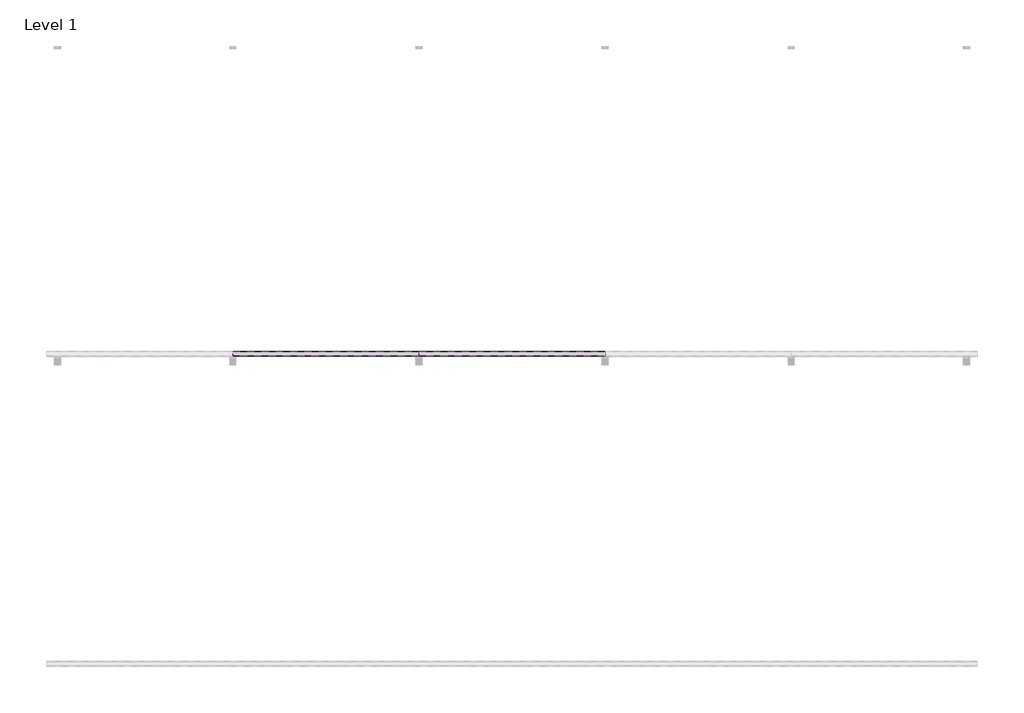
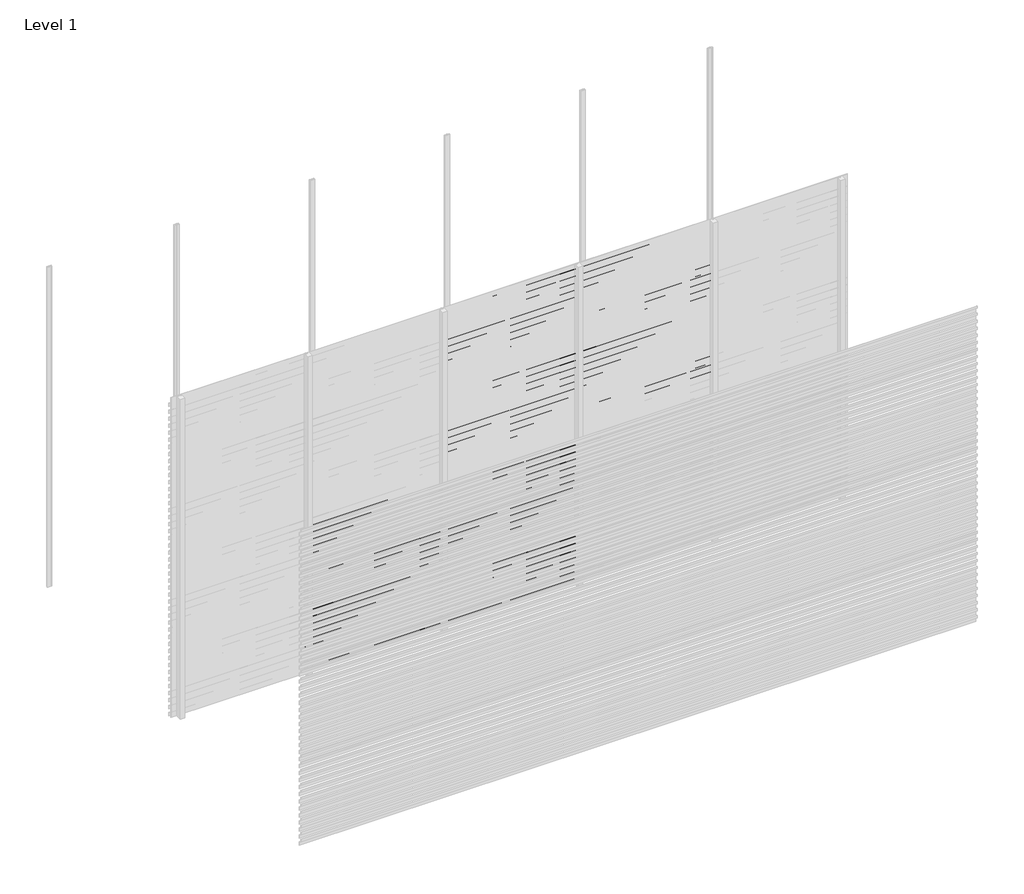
# One storey, part 17 of 33: 88 proxies.
"""IFC4 building model written with IfcOpenShell, lengths in millimetres."""

import ifcopenshell
import ifcopenshell.guid

model = None  # the IFC model being written
_history = None  # IfcOwnerHistory: only IFC2X3 demands one
_inside = {}  # id of a spatial element -> (the spatial element, [elements in it])
_under = {}  # id of a project, library or spatial element -> (it, [spatial elements below it])
_declared = {}  # id of a project -> (the project, [libraries it declares])
_typed = {}  # id of a type object -> (the type object, [elements of that type])
_made_of = {}  # id of a material, layer set ... -> (it, [elements and type objects made of it])


def new_model(schema):
    """Start an empty IFC model of exactly this schema.

    Asked for "IFC4X3", IfcOpenShell would pick the latest addendum, in which some entities
    have other attributes; the version numbers below select the first issue.
    IFC2X3 requires an IfcOwnerHistory on every rooted entity: one is made here for all.
    """
    global model, _history
    if schema == "IFC4X3":
        model = ifcopenshell.file(schema_version=(4, 3, 0, 0))
    else:
        model = ifcopenshell.file(schema=schema)
    _inside.clear()
    _under.clear()
    _declared.clear()
    _typed.clear()
    _made_of.clear()
    _history = None
    if model.schema == "IFC2X3":
        org = make("IfcOrganization", Name="unknown")
        user = make(
            "IfcPersonAndOrganization",
            ThePerson=make("IfcPerson", FamilyName="unknown"),
            TheOrganization=org,
        )
        app = make(
            "IfcApplication",
            ApplicationDeveloper=org,
            Version="unknown",
            ApplicationFullName="unknown",
            ApplicationIdentifier="unknown",
        )
        _history = make(
            "IfcOwnerHistory",
            OwningUser=user,
            OwningApplication=app,
            ChangeAction="ADDED",
            CreationDate=0,
        )
    return model


def make(cls, **values):
    """One entity of the class cls with the attributes given. An attribute that is None is left unset."""
    return model.create_entity(
        cls, **{name: value for name, value in values.items() if value is not None}
    )


def rooted(cls, **values):
    """An entity with a GlobalId (a new one), such as an element, a storey or a relation."""
    return make(cls, GlobalId=ifcopenshell.guid.new(), OwnerHistory=_history, **values)


def si_unit(unit_type, name, prefix=None):
    """IfcSIUnit, for example si_unit("LENGTHUNIT", "METRE", prefix="MILLI")."""
    return make("IfcSIUnit", UnitType=unit_type, Prefix=prefix, Name=name)


def assignment(units):
    """IfcUnitAssignment: the units of a project."""
    return None if units is None else make("IfcUnitAssignment", Units=units)


def point(xyz):
    """IfcCartesianPoint."""
    return None if xyz is None else make("IfcCartesianPoint", Coordinates=xyz)


def direction(xyz):
    """IfcDirection."""
    return None if xyz is None else make("IfcDirection", DirectionRatios=xyz)


def frame(location, z_axis=None, x_axis=None):
    """IfcAxis2Placement3D, a coordinate frame: its origin and axes. An axis left out is left unset."""
    return make(
        "IfcAxis2Placement3D",
        Location=point(location),
        Axis=direction(z_axis),
        RefDirection=direction(x_axis),
    )


def origin():
    """The frame at (0, 0, 0) with its axes left unset."""
    return frame((0.0, 0.0, 0.0))


def place(relative_to, where):
    """IfcLocalPlacement: puts the frame where relative to a parent placement (None: the world)."""
    return make(
        "IfcLocalPlacement", PlacementRelTo=relative_to, RelativePlacement=where
    )


def context(
    kind, dimensions, precision=None, world=None, true_north=None, identifier=None
):
    """IfcGeometricRepresentationContext, for example the 3D "Model" context."""
    return make(
        "IfcGeometricRepresentationContext",
        ContextIdentifier=identifier,
        ContextType=kind,
        CoordinateSpaceDimension=dimensions,
        Precision=precision,
        WorldCoordinateSystem=world,
        TrueNorth=true_north,
    )


def project(units=None, contexts=None):
    """IfcProject with its units and contexts."""
    return rooted(
        "IfcProject",
        Name="project",
        RepresentationContexts=contexts,
        UnitsInContext=assignment(units),
    )


def spatial(cls, under=None, at=None, **own):
    """A site, building, storey or space (cls), placed at a placement, below another one or the project."""
    s = rooted(cls, ObjectPlacement=at, **own)
    if under is not None:
        _under.setdefault(under.id(), (under, []))[1].append(s)
    return s


def polyline(points):
    """IfcPolyline through the points."""
    return make("IfcPolyline", Points=[point(p) for p in points])


def outline(outer, holes=None, kind="AREA"):
    """IfcArbitraryClosedProfileDef: a profile drawn as a closed curve; with holes, ...WithVoids."""
    if holes is None:
        return make("IfcArbitraryClosedProfileDef", ProfileType=kind, OuterCurve=outer)
    return make(
        "IfcArbitraryProfileDefWithVoids",
        ProfileType=kind,
        OuterCurve=outer,
        InnerCurves=holes,
    )


def extrude(swept, where, along, depth):
    """IfcExtrudedAreaSolid: the profile swept, set in the frame where, extruded along a direction by depth."""
    return make(
        "IfcExtrudedAreaSolid",
        SweptArea=swept,
        Position=where,
        ExtrudedDirection=direction(along),
        Depth=depth,
    )


def shape(context_of_items, identifier, shape_type, items):
    """IfcShapeRepresentation: the items that make up one representation, for example the "Body"."""
    return make(
        "IfcShapeRepresentation",
        ContextOfItems=context_of_items,
        RepresentationIdentifier=identifier,
        RepresentationType=shape_type,
        Items=items,
    )


def made_of(thing, what):
    """Note that an element or type object is made of a material, layer set ...; save() writes the relation."""
    if what is not None:
        _made_of.setdefault(what.id(), (what, []))[1].append(thing)
    return thing


def element(
    cls,
    number,
    at=None,
    inside=None,
    cuts=None,
    type_object=None,
    material=None,
    context=None,
    identifier="Body",
    shape_type=None,
    held_by="IfcProductDefinitionShape",
    body=None,
    shapes=None,
    **own,
):
    """One element of the class cls, such as IfcWall. Its Tag is "e" and its number.

    at: its placement. inside: the storey or other place that contains it. cuts: it is an
    opening in that element (IfcRelVoidsElement). A single representation is given by context,
    identifier, shape_type and body (its items); several are given by shapes. held_by: the class
    of the entity that holds the representations. save() writes the other relations.
    """
    e = rooted(cls, Tag="e%d" % number, ObjectPlacement=at, **own)
    if body is not None:
        shapes = [shape(context, identifier, shape_type, body)]
    if shapes is not None:
        e.Representation = make(held_by, Representations=shapes)
    if inside is not None:
        _inside.setdefault(inside.id(), (inside, []))[1].append(e)
    if cuts is not None:
        rooted(
            "IfcRelVoidsElement", RelatingBuildingElement=cuts, RelatedOpeningElement=e
        )
    if type_object is not None:
        _typed.setdefault(type_object.id(), (type_object, []))[1].append(e)
    return made_of(e, material)


def aggregate(whole, parts):
    """IfcRelAggregates: a whole, such as a stair, and the parts it consists of."""
    return rooted("IfcRelAggregates", RelatingObject=whole, RelatedObjects=parts)


def save(model, path):
    """Write the relations noted so far, then the file.

    IfcRelAggregates (storeys below a building ...), IfcRelContainedInSpatialStructure (elements
    in a storey), IfcRelDefinesByType, IfcRelAssociatesMaterial and IfcRelDeclares: one each for
    every whole, place, type object, material and project.
    """
    for whole, parts in _under.values():
        aggregate(whole, parts)
    for where, things in _inside.values():
        rooted(
            "IfcRelContainedInSpatialStructure",
            RelatedElements=things,
            RelatingStructure=where,
        )
    for kind, things in _typed.values():
        rooted("IfcRelDefinesByType", RelatedObjects=things, RelatingType=kind)
    for what, things in _made_of.values():
        rooted("IfcRelAssociatesMaterial", RelatedObjects=things, RelatingMaterial=what)
    for by, libraries in _declared.values():
        rooted("IfcRelDeclares", RelatingContext=by, RelatedDefinitions=libraries)
    model.write(path)


model = new_model("IFC4")

# Units and contexts
model_context = context("Model", 3, world=origin())
ifc_project = project(units=[si_unit("LENGTHUNIT", "METRE", prefix="MILLI")], contexts=[model_context])

# Site, building, storey
site = spatial("IfcSite", under=ifc_project)
building = spatial("IfcBuilding", under=site)
storey = spatial("IfcBuildingStorey", under=building, Name="Level 1", Elevation=0.0)

# Proxies
placement = place(None, origin())
element("IfcBuildingElementProxy", 1, Name="Wall Sweeps", at=placement, inside=storey, context=model_context, shape_type="SweptSolid", body=[
    extrude(outline(polyline([(-29967.0, 1346.0), (-29967.0, 1313.0), (-29968.25, 1313.7216933), (-29968.25, 1345.2872415), (-29998.0, 1366.0588647), (-29998.0, 1386.0), (-29996.75, 1386.0), (-29996.75, 1366.7716232), (-29967.0, 1346.0)])), frame((1200.0, 0.0, 0.0), z_axis=(1.0, 0.0, 0.0), x_axis=(0.0, 1.0, 0.0)), (0.0, 0.0, 1.0), 1200.0),
])
element("IfcBuildingElementProxy", 2, Name="Wall Sweeps", at=placement, inside=storey, context=model_context, shape_type="SweptSolid", body=[
    extrude(outline(polyline([(-29967.0, 1280.0), (-29967.0, 1247.0), (-29968.25, 1247.7216933), (-29968.25, 1279.2872415), (-29998.0, 1300.0588647), (-29998.0, 1320.0), (-29996.75, 1320.0), (-29996.75, 1300.7716232), (-29967.0, 1280.0)])), frame((1200.0, 0.0, 0.0), z_axis=(1.0, 0.0, 0.0), x_axis=(0.0, 1.0, 0.0)), (0.0, 0.0, 1.0), 1200.0),
])
element("IfcBuildingElementProxy", 3, Name="Wall Sweeps", at=placement, inside=storey, context=model_context, shape_type="SweptSolid", body=[
    extrude(outline(polyline([(-29967.0, 1214.0), (-29967.0, 1181.0), (-29968.25, 1181.7216933), (-29968.25, 1213.2872415), (-29998.0, 1234.0588647), (-29998.0, 1254.0), (-29996.75, 1254.0), (-29996.75, 1234.7716232), (-29967.0, 1214.0)])), frame((1200.0, 0.0, 0.0), z_axis=(1.0, 0.0, 0.0), x_axis=(0.0, 1.0, 0.0)), (0.0, 0.0, 1.0), 1200.0),
])
element("IfcBuildingElementProxy", 4, Name="Wall Sweeps", at=placement, inside=storey, context=model_context, shape_type="SweptSolid", body=[
    extrude(outline(polyline([(-29967.0, 1148.0), (-29967.0, 1115.0), (-29968.25, 1115.7216933), (-29968.25, 1147.2872415), (-29998.0, 1168.0588647), (-29998.0, 1188.0), (-29996.75, 1188.0), (-29996.75, 1168.7716232), (-29967.0, 1148.0)])), frame((1200.0, 0.0, 0.0), z_axis=(1.0, 0.0, 0.0), x_axis=(0.0, 1.0, 0.0)), (0.0, 0.0, 1.0), 1200.0),
])
element("IfcBuildingElementProxy", 5, Name="Wall Sweeps", at=placement, inside=storey, context=model_context, shape_type="SweptSolid", body=[
    extrude(outline(polyline([(-29967.0, 1082.0), (-29967.0, 1049.0), (-29968.25, 1049.7216933), (-29968.25, 1081.2872415), (-29998.0, 1102.0588647), (-29998.0, 1122.0), (-29996.75, 1122.0), (-29996.75, 1102.7716232), (-29967.0, 1082.0)])), frame((1200.0, 0.0, 0.0), z_axis=(1.0, 0.0, 0.0), x_axis=(0.0, 1.0, 0.0)), (0.0, 0.0, 1.0), 1200.0),
])
element("IfcBuildingElementProxy", 6, Name="Wall Sweeps", at=placement, inside=storey, context=model_context, shape_type="SweptSolid", body=[
    extrude(outline(polyline([(-29967.0, 1016.0), (-29967.0, 983.0), (-29968.25, 983.7216933), (-29968.25, 1015.2872415), (-29998.0, 1036.0588647), (-29998.0, 1056.0), (-29996.75, 1056.0), (-29996.75, 1036.7716232), (-29967.0, 1016.0)])), frame((1200.0, 0.0, 0.0), z_axis=(1.0, 0.0, 0.0), x_axis=(0.0, 1.0, 0.0)), (0.0, 0.0, 1.0), 1200.0),
])
element("IfcBuildingElementProxy", 7, Name="Wall Sweeps", at=placement, inside=storey, context=model_context, shape_type="SweptSolid", body=[
    extrude(outline(polyline([(-29967.0, 950.0), (-29967.0, 917.0), (-29968.25, 917.7216933), (-29968.25, 949.2872415), (-29998.0, 970.0588647), (-29998.0, 990.0), (-29996.75, 990.0), (-29996.75, 970.7716232), (-29967.0, 950.0)])), frame((1200.0, 0.0, 0.0), z_axis=(1.0, 0.0, 0.0), x_axis=(0.0, 1.0, 0.0)), (0.0, 0.0, 1.0), 1200.0),
])
element("IfcBuildingElementProxy", 8, Name="Wall Sweeps", at=placement, inside=storey, context=model_context, shape_type="SweptSolid", body=[
    extrude(outline(polyline([(-29967.0, 884.0), (-29967.0, 851.0), (-29968.25, 851.7216933), (-29968.25, 883.2872415), (-29998.0, 904.0588647), (-29998.0, 924.0), (-29996.75, 924.0), (-29996.75, 904.7716232), (-29967.0, 884.0)])), frame((1200.0, 0.0, 0.0), z_axis=(1.0, 0.0, 0.0), x_axis=(0.0, 1.0, 0.0)), (0.0, 0.0, 1.0), 1200.0),
])
element("IfcBuildingElementProxy", 9, Name="Wall Sweeps", at=placement, inside=storey, context=model_context, shape_type="SweptSolid", body=[
    extrude(outline(polyline([(-29967.0, 818.0), (-29967.0, 785.0), (-29968.25, 785.7216933), (-29968.25, 817.2872415), (-29998.0, 838.0588647), (-29998.0, 858.0), (-29996.75, 858.0), (-29996.75, 838.7716232), (-29967.0, 818.0)])), frame((1200.0, 0.0, 0.0), z_axis=(1.0, 0.0, 0.0), x_axis=(0.0, 1.0, 0.0)), (0.0, 0.0, 1.0), 1200.0),
])
element("IfcBuildingElementProxy", 10, Name="Wall Sweeps", at=placement, inside=storey, context=model_context, shape_type="SweptSolid", body=[
    extrude(outline(polyline([(-29967.0, 752.0), (-29967.0, 719.0), (-29968.25, 719.7216933), (-29968.25, 751.2872415), (-29998.0, 772.0588647), (-29998.0, 792.0), (-29996.75, 792.0), (-29996.75, 772.7716232), (-29967.0, 752.0)])), frame((1200.0, 0.0, 0.0), z_axis=(1.0, 0.0, 0.0), x_axis=(0.0, 1.0, 0.0)), (0.0, 0.0, 1.0), 1200.0),
])
element("IfcBuildingElementProxy", 11, Name="Wall Sweeps", at=placement, inside=storey, context=model_context, shape_type="SweptSolid", body=[
    extrude(outline(polyline([(-29967.0, 686.0), (-29967.0, 653.0), (-29968.25, 653.7216933), (-29968.25, 685.2872415), (-29998.0, 706.0588647), (-29998.0, 726.0), (-29996.75, 726.0), (-29996.75, 706.7716232), (-29967.0, 686.0)])), frame((1200.0, 0.0, 0.0), z_axis=(1.0, 0.0, 0.0), x_axis=(0.0, 1.0, 0.0)), (0.0, 0.0, 1.0), 1200.0),
])
element("IfcBuildingElementProxy", 12, Name="Wall Sweeps", at=placement, inside=storey, context=model_context, shape_type="SweptSolid", body=[
    extrude(outline(polyline([(-29967.0, 620.0), (-29967.0, 587.0), (-29968.25, 587.7216933), (-29968.25, 619.2872415), (-29998.0, 640.0588647), (-29998.0, 660.0), (-29996.75, 660.0), (-29996.75, 640.7716232), (-29967.0, 620.0)])), frame((1200.0, 0.0, 0.0), z_axis=(1.0, 0.0, 0.0), x_axis=(0.0, 1.0, 0.0)), (0.0, 0.0, 1.0), 1200.0),
])
element("IfcBuildingElementProxy", 13, Name="Wall Sweeps", at=placement, inside=storey, context=model_context, shape_type="SweptSolid", body=[
    extrude(outline(polyline([(-29967.0, 554.0), (-29967.0, 521.0), (-29968.25, 521.7216933), (-29968.25, 553.2872415), (-29998.0, 574.0588647), (-29998.0, 594.0), (-29996.75, 594.0), (-29996.75, 574.7716232), (-29967.0, 554.0)])), frame((1200.0, 0.0, 0.0), z_axis=(1.0, 0.0, 0.0), x_axis=(0.0, 1.0, 0.0)), (0.0, 0.0, 1.0), 1200.0),
])
element("IfcBuildingElementProxy", 14, Name="Wall Sweeps", at=placement, inside=storey, context=model_context, shape_type="SweptSolid", body=[
    extrude(outline(polyline([(-29967.0, 488.0), (-29967.0, 455.0), (-29968.25, 455.7216933), (-29968.25, 487.2872415), (-29998.0, 508.0588647), (-29998.0, 528.0), (-29996.75, 528.0), (-29996.75, 508.7716232), (-29967.0, 488.0)])), frame((1200.0, 0.0, 0.0), z_axis=(1.0, 0.0, 0.0), x_axis=(0.0, 1.0, 0.0)), (0.0, 0.0, 1.0), 1200.0),
])
element("IfcBuildingElementProxy", 15, Name="Wall Sweeps", at=placement, inside=storey, context=model_context, shape_type="SweptSolid", body=[
    extrude(outline(polyline([(-29967.0, 422.0), (-29967.0, 389.0), (-29968.25, 389.7216933), (-29968.25, 421.2872415), (-29998.0, 442.0588647), (-29998.0, 462.0), (-29996.75, 462.0), (-29996.75, 442.7716232), (-29967.0, 422.0)])), frame((1200.0, 0.0, 0.0), z_axis=(1.0, 0.0, 0.0), x_axis=(0.0, 1.0, 0.0)), (0.0, 0.0, 1.0), 1200.0),
])
element("IfcBuildingElementProxy", 16, Name="Wall Sweeps", at=placement, inside=storey, context=model_context, shape_type="SweptSolid", body=[
    extrude(outline(polyline([(-29967.0, 356.0), (-29967.0, 323.0), (-29968.25, 323.7216933), (-29968.25, 355.2872415), (-29998.0, 376.0588647), (-29998.0, 396.0), (-29996.75, 396.0), (-29996.75, 376.7716232), (-29967.0, 356.0)])), frame((1200.0, 0.0, 0.0), z_axis=(1.0, 0.0, 0.0), x_axis=(0.0, 1.0, 0.0)), (0.0, 0.0, 1.0), 1200.0),
])
element("IfcBuildingElementProxy", 17, Name="Wall Sweeps", at=placement, inside=storey, context=model_context, shape_type="SweptSolid", body=[
    extrude(outline(polyline([(-29967.0, 290.0), (-29967.0, 257.0), (-29968.25, 257.7216933), (-29968.25, 289.2872415), (-29998.0, 310.0588647), (-29998.0, 330.0), (-29996.75, 330.0), (-29996.75, 310.7716232), (-29967.0, 290.0)])), frame((1200.0, 0.0, 0.0), z_axis=(1.0, 0.0, 0.0), x_axis=(0.0, 1.0, 0.0)), (0.0, 0.0, 1.0), 1200.0),
])
element("IfcBuildingElementProxy", 18, Name="Wall Sweeps", at=placement, inside=storey, context=model_context, shape_type="SweptSolid", body=[
    extrude(outline(polyline([(-29967.0, 224.0), (-29967.0, 191.0), (-29968.25, 191.7216933), (-29968.25, 223.2872415), (-29998.0, 244.0588647), (-29998.0, 264.0), (-29996.75, 264.0), (-29996.75, 244.7716232), (-29967.0, 224.0)])), frame((1200.0, 0.0, 0.0), z_axis=(1.0, 0.0, 0.0), x_axis=(0.0, 1.0, 0.0)), (0.0, 0.0, 1.0), 1200.0),
])
element("IfcBuildingElementProxy", 19, Name="Wall Sweeps", at=placement, inside=storey, context=model_context, shape_type="SweptSolid", body=[
    extrude(outline(polyline([(-29967.0, 158.0), (-29967.0, 125.0), (-29968.25, 125.7216933), (-29968.25, 157.2872415), (-29998.0, 178.0588647), (-29998.0, 198.0), (-29996.75, 198.0), (-29996.75, 178.7716232), (-29967.0, 158.0)])), frame((1200.0, 0.0, 0.0), z_axis=(1.0, 0.0, 0.0), x_axis=(0.0, 1.0, 0.0)), (0.0, 0.0, 1.0), 1200.0),
])
element("IfcBuildingElementProxy", 20, Name="Wall Sweeps", at=placement, inside=storey, context=model_context, shape_type="SweptSolid", body=[
    extrude(outline(polyline([(-29967.0, 92.0), (-29967.0, 59.0), (-29968.25, 59.7216933), (-29968.25, 91.2872415), (-29998.0, 112.0588647), (-29998.0, 132.0), (-29996.75, 132.0), (-29996.75, 112.7716232), (-29967.0, 92.0)])), frame((1200.0, 0.0, 0.0), z_axis=(1.0, 0.0, 0.0), x_axis=(0.0, 1.0, 0.0)), (0.0, 0.0, 1.0), 1200.0),
])
element("IfcBuildingElementProxy", 21, Name="Wall Sweeps", at=placement, inside=storey, context=model_context, shape_type="SweptSolid", body=[
    extrude(outline(polyline([(-29967.0, 26.0), (-29967.0, -7.0), (-29968.25, -6.2783067), (-29968.25, 25.2872415), (-29998.0, 46.0588647), (-29998.0, 66.0), (-29996.75, 66.0), (-29996.75, 46.7716232), (-29967.0, 26.0)])), frame((1200.0, 0.0, 0.0), z_axis=(1.0, 0.0, 0.0), x_axis=(0.0, 1.0, 0.0)), (0.0, 0.0, 1.0), 1200.0),
])
element("IfcBuildingElementProxy", 22, Name="Wall Sweeps", at=placement, inside=storey, context=model_context, shape_type="SweptSolid", body=[
    extrude(outline(polyline([(-29967.0, 2930.0), (-29967.0, 2897.0), (-29968.25, 2897.7216933), (-29968.25, 2929.2872415), (-29998.0, 2950.0588647), (-29998.0, 2970.0), (-29996.75, 2970.0), (-29996.75, 2950.7716232), (-29967.0, 2930.0)])), frame((2400.0, 0.0, 0.0), z_axis=(1.0, 0.0, 0.0), x_axis=(0.0, 1.0, 0.0)), (0.0, 0.0, 1.0), 1200.0),
])
element("IfcBuildingElementProxy", 23, Name="Wall Sweeps", at=placement, inside=storey, context=model_context, shape_type="SweptSolid", body=[
    extrude(outline(polyline([(-29967.0, 2864.0), (-29967.0, 2831.0), (-29968.25, 2831.7216933), (-29968.25, 2863.2872415), (-29998.0, 2884.0588647), (-29998.0, 2904.0), (-29996.75, 2904.0), (-29996.75, 2884.7716232), (-29967.0, 2864.0)])), frame((2400.0, 0.0, 0.0), z_axis=(1.0, 0.0, 0.0), x_axis=(0.0, 1.0, 0.0)), (0.0, 0.0, 1.0), 1200.0),
])
element("IfcBuildingElementProxy", 24, Name="Wall Sweeps", at=placement, inside=storey, context=model_context, shape_type="SweptSolid", body=[
    extrude(outline(polyline([(-29967.0, 2798.0), (-29967.0, 2765.0), (-29968.25, 2765.7216933), (-29968.25, 2797.2872415), (-29998.0, 2818.0588647), (-29998.0, 2838.0), (-29996.75, 2838.0), (-29996.75, 2818.7716232), (-29967.0, 2798.0)])), frame((2400.0, 0.0, 0.0), z_axis=(1.0, 0.0, 0.0), x_axis=(0.0, 1.0, 0.0)), (0.0, 0.0, 1.0), 1200.0),
])
element("IfcBuildingElementProxy", 25, Name="Wall Sweeps", at=placement, inside=storey, context=model_context, shape_type="SweptSolid", body=[
    extrude(outline(polyline([(-29967.0, 2732.0), (-29967.0, 2699.0), (-29968.25, 2699.7216933), (-29968.25, 2731.2872415), (-29998.0, 2752.0588647), (-29998.0, 2772.0), (-29996.75, 2772.0), (-29996.75, 2752.7716232), (-29967.0, 2732.0)])), frame((2400.0, 0.0, 0.0), z_axis=(1.0, 0.0, 0.0), x_axis=(0.0, 1.0, 0.0)), (0.0, 0.0, 1.0), 1200.0),
])
element("IfcBuildingElementProxy", 26, Name="Wall Sweeps", at=placement, inside=storey, context=model_context, shape_type="SweptSolid", body=[
    extrude(outline(polyline([(-29967.0, 2666.0), (-29967.0, 2633.0), (-29968.25, 2633.7216933), (-29968.25, 2665.2872415), (-29998.0, 2686.0588647), (-29998.0, 2706.0), (-29996.75, 2706.0), (-29996.75, 2686.7716232), (-29967.0, 2666.0)])), frame((2400.0, 0.0, 0.0), z_axis=(1.0, 0.0, 0.0), x_axis=(0.0, 1.0, 0.0)), (0.0, 0.0, 1.0), 1200.0),
])
element("IfcBuildingElementProxy", 27, Name="Wall Sweeps", at=placement, inside=storey, context=model_context, shape_type="SweptSolid", body=[
    extrude(outline(polyline([(-29967.0, 2600.0), (-29967.0, 2567.0), (-29968.25, 2567.7216933), (-29968.25, 2599.2872415), (-29998.0, 2620.0588647), (-29998.0, 2640.0), (-29996.75, 2640.0), (-29996.75, 2620.7716232), (-29967.0, 2600.0)])), frame((2400.0, 0.0, 0.0), z_axis=(1.0, 0.0, 0.0), x_axis=(0.0, 1.0, 0.0)), (0.0, 0.0, 1.0), 1200.0),
])
element("IfcBuildingElementProxy", 28, Name="Wall Sweeps", at=placement, inside=storey, context=model_context, shape_type="SweptSolid", body=[
    extrude(outline(polyline([(-29967.0, 2534.0), (-29967.0, 2501.0), (-29968.25, 2501.7216933), (-29968.25, 2533.2872415), (-29998.0, 2554.0588647), (-29998.0, 2574.0), (-29996.75, 2574.0), (-29996.75, 2554.7716232), (-29967.0, 2534.0)])), frame((2400.0, 0.0, 0.0), z_axis=(1.0, 0.0, 0.0), x_axis=(0.0, 1.0, 0.0)), (0.0, 0.0, 1.0), 1200.0),
])
element("IfcBuildingElementProxy", 29, Name="Wall Sweeps", at=placement, inside=storey, context=model_context, shape_type="SweptSolid", body=[
    extrude(outline(polyline([(-29967.0, 2468.0), (-29967.0, 2435.0), (-29968.25, 2435.7216933), (-29968.25, 2467.2872415), (-29998.0, 2488.0588647), (-29998.0, 2508.0), (-29996.75, 2508.0), (-29996.75, 2488.7716232), (-29967.0, 2468.0)])), frame((2400.0, 0.0, 0.0), z_axis=(1.0, 0.0, 0.0), x_axis=(0.0, 1.0, 0.0)), (0.0, 0.0, 1.0), 1200.0),
])
element("IfcBuildingElementProxy", 30, Name="Wall Sweeps", at=placement, inside=storey, context=model_context, shape_type="SweptSolid", body=[
    extrude(outline(polyline([(-29967.0, 2402.0), (-29967.0, 2369.0), (-29968.25, 2369.7216933), (-29968.25, 2401.2872415), (-29998.0, 2422.0588647), (-29998.0, 2442.0), (-29996.75, 2442.0), (-29996.75, 2422.7716232), (-29967.0, 2402.0)])), frame((2400.0, 0.0, 0.0), z_axis=(1.0, 0.0, 0.0), x_axis=(0.0, 1.0, 0.0)), (0.0, 0.0, 1.0), 1200.0),
])
element("IfcBuildingElementProxy", 31, Name="Wall Sweeps", at=placement, inside=storey, context=model_context, shape_type="SweptSolid", body=[
    extrude(outline(polyline([(-29967.0, 2336.0), (-29967.0, 2303.0), (-29968.25, 2303.7216933), (-29968.25, 2335.2872415), (-29998.0, 2356.0588647), (-29998.0, 2376.0), (-29996.75, 2376.0), (-29996.75, 2356.7716232), (-29967.0, 2336.0)])), frame((2400.0, 0.0, 0.0), z_axis=(1.0, 0.0, 0.0), x_axis=(0.0, 1.0, 0.0)), (0.0, 0.0, 1.0), 1200.0),
])
element("IfcBuildingElementProxy", 32, Name="Wall Sweeps", at=placement, inside=storey, context=model_context, shape_type="SweptSolid", body=[
    extrude(outline(polyline([(-29967.0, 2270.0), (-29967.0, 2237.0), (-29968.25, 2237.7216933), (-29968.25, 2269.2872415), (-29998.0, 2290.0588647), (-29998.0, 2310.0), (-29996.75, 2310.0), (-29996.75, 2290.7716232), (-29967.0, 2270.0)])), frame((2400.0, 0.0, 0.0), z_axis=(1.0, 0.0, 0.0), x_axis=(0.0, 1.0, 0.0)), (0.0, 0.0, 1.0), 1200.0),
])
element("IfcBuildingElementProxy", 33, Name="Wall Sweeps", at=placement, inside=storey, context=model_context, shape_type="SweptSolid", body=[
    extrude(outline(polyline([(-29967.0, 2204.0), (-29967.0, 2171.0), (-29968.25, 2171.7216933), (-29968.25, 2203.2872415), (-29998.0, 2224.0588647), (-29998.0, 2244.0), (-29996.75, 2244.0), (-29996.75, 2224.7716232), (-29967.0, 2204.0)])), frame((2400.0, 0.0, 0.0), z_axis=(1.0, 0.0, 0.0), x_axis=(0.0, 1.0, 0.0)), (0.0, 0.0, 1.0), 1200.0),
])
element("IfcBuildingElementProxy", 34, Name="Wall Sweeps", at=placement, inside=storey, context=model_context, shape_type="SweptSolid", body=[
    extrude(outline(polyline([(-29967.0, 2138.0), (-29967.0, 2105.0), (-29968.25, 2105.7216933), (-29968.25, 2137.2872415), (-29998.0, 2158.0588647), (-29998.0, 2178.0), (-29996.75, 2178.0), (-29996.75, 2158.7716232), (-29967.0, 2138.0)])), frame((2400.0, 0.0, 0.0), z_axis=(1.0, 0.0, 0.0), x_axis=(0.0, 1.0, 0.0)), (0.0, 0.0, 1.0), 1200.0),
])
element("IfcBuildingElementProxy", 35, Name="Wall Sweeps", at=placement, inside=storey, context=model_context, shape_type="SweptSolid", body=[
    extrude(outline(polyline([(-29967.0, 2072.0), (-29967.0, 2039.0), (-29968.25, 2039.7216933), (-29968.25, 2071.2872415), (-29998.0, 2092.0588647), (-29998.0, 2112.0), (-29996.75, 2112.0), (-29996.75, 2092.7716232), (-29967.0, 2072.0)])), frame((2400.0, 0.0, 0.0), z_axis=(1.0, 0.0, 0.0), x_axis=(0.0, 1.0, 0.0)), (0.0, 0.0, 1.0), 1200.0),
])
element("IfcBuildingElementProxy", 36, Name="Wall Sweeps", at=placement, inside=storey, context=model_context, shape_type="SweptSolid", body=[
    extrude(outline(polyline([(-29967.0, 2006.0), (-29967.0, 1973.0), (-29968.25, 1973.7216933), (-29968.25, 2005.2872415), (-29998.0, 2026.0588647), (-29998.0, 2046.0), (-29996.75, 2046.0), (-29996.75, 2026.7716232), (-29967.0, 2006.0)])), frame((2400.0, 0.0, 0.0), z_axis=(1.0, 0.0, 0.0), x_axis=(0.0, 1.0, 0.0)), (0.0, 0.0, 1.0), 1200.0),
])
element("IfcBuildingElementProxy", 37, Name="Wall Sweeps", at=placement, inside=storey, context=model_context, shape_type="SweptSolid", body=[
    extrude(outline(polyline([(-29967.0, 1940.0), (-29967.0, 1907.0), (-29968.25, 1907.7216933), (-29968.25, 1939.2872415), (-29998.0, 1960.0588647), (-29998.0, 1980.0), (-29996.75, 1980.0), (-29996.75, 1960.7716232), (-29967.0, 1940.0)])), frame((2400.0, 0.0, 0.0), z_axis=(1.0, 0.0, 0.0), x_axis=(0.0, 1.0, 0.0)), (0.0, 0.0, 1.0), 1200.0),
])
element("IfcBuildingElementProxy", 38, Name="Wall Sweeps", at=placement, inside=storey, context=model_context, shape_type="SweptSolid", body=[
    extrude(outline(polyline([(-29967.0, 1874.0), (-29967.0, 1841.0), (-29968.25, 1841.7216933), (-29968.25, 1873.2872415), (-29998.0, 1894.0588647), (-29998.0, 1914.0), (-29996.75, 1914.0), (-29996.75, 1894.7716232), (-29967.0, 1874.0)])), frame((2400.0, 0.0, 0.0), z_axis=(1.0, 0.0, 0.0), x_axis=(0.0, 1.0, 0.0)), (0.0, 0.0, 1.0), 1200.0),
])
element("IfcBuildingElementProxy", 39, Name="Wall Sweeps", at=placement, inside=storey, context=model_context, shape_type="SweptSolid", body=[
    extrude(outline(polyline([(-29967.0, 1808.0), (-29967.0, 1775.0), (-29968.25, 1775.7216933), (-29968.25, 1807.2872415), (-29998.0, 1828.0588647), (-29998.0, 1848.0), (-29996.75, 1848.0), (-29996.75, 1828.7716232), (-29967.0, 1808.0)])), frame((2400.0, 0.0, 0.0), z_axis=(1.0, 0.0, 0.0), x_axis=(0.0, 1.0, 0.0)), (0.0, 0.0, 1.0), 1200.0),
])
element("IfcBuildingElementProxy", 40, Name="Wall Sweeps", at=placement, inside=storey, context=model_context, shape_type="SweptSolid", body=[
    extrude(outline(polyline([(-29967.0, 1742.0), (-29967.0, 1709.0), (-29968.25, 1709.7216933), (-29968.25, 1741.2872415), (-29998.0, 1762.0588647), (-29998.0, 1782.0), (-29996.75, 1782.0), (-29996.75, 1762.7716232), (-29967.0, 1742.0)])), frame((2400.0, 0.0, 0.0), z_axis=(1.0, 0.0, 0.0), x_axis=(0.0, 1.0, 0.0)), (0.0, 0.0, 1.0), 1200.0),
])
element("IfcBuildingElementProxy", 41, Name="Wall Sweeps", at=placement, inside=storey, context=model_context, shape_type="SweptSolid", body=[
    extrude(outline(polyline([(-29967.0, 1676.0), (-29967.0, 1643.0), (-29968.25, 1643.7216933), (-29968.25, 1675.2872415), (-29998.0, 1696.0588647), (-29998.0, 1716.0), (-29996.75, 1716.0), (-29996.75, 1696.7716232), (-29967.0, 1676.0)])), frame((2400.0, 0.0, 0.0), z_axis=(1.0, 0.0, 0.0), x_axis=(0.0, 1.0, 0.0)), (0.0, 0.0, 1.0), 1200.0),
])
element("IfcBuildingElementProxy", 42, Name="Wall Sweeps", at=placement, inside=storey, context=model_context, shape_type="SweptSolid", body=[
    extrude(outline(polyline([(-29967.0, 1610.0), (-29967.0, 1577.0), (-29968.25, 1577.7216933), (-29968.25, 1609.2872415), (-29998.0, 1630.0588647), (-29998.0, 1650.0), (-29996.75, 1650.0), (-29996.75, 1630.7716232), (-29967.0, 1610.0)])), frame((2400.0, 0.0, 0.0), z_axis=(1.0, 0.0, 0.0), x_axis=(0.0, 1.0, 0.0)), (0.0, 0.0, 1.0), 1200.0),
])
element("IfcBuildingElementProxy", 43, Name="Wall Sweeps", at=placement, inside=storey, context=model_context, shape_type="SweptSolid", body=[
    extrude(outline(polyline([(-29967.0, 1544.0), (-29967.0, 1511.0), (-29968.25, 1511.7216933), (-29968.25, 1543.2872415), (-29998.0, 1564.0588647), (-29998.0, 1584.0), (-29996.75, 1584.0), (-29996.75, 1564.7716232), (-29967.0, 1544.0)])), frame((2400.0, 0.0, 0.0), z_axis=(1.0, 0.0, 0.0), x_axis=(0.0, 1.0, 0.0)), (0.0, 0.0, 1.0), 1200.0),
])
element("IfcBuildingElementProxy", 44, Name="Wall Sweeps", at=placement, inside=storey, context=model_context, shape_type="SweptSolid", body=[
    extrude(outline(polyline([(-29967.0, 1478.0), (-29967.0, 1445.0), (-29968.25, 1445.7216933), (-29968.25, 1477.2872415), (-29998.0, 1498.0588647), (-29998.0, 1518.0), (-29996.75, 1518.0), (-29996.75, 1498.7716232), (-29967.0, 1478.0)])), frame((2400.0, 0.0, 0.0), z_axis=(1.0, 0.0, 0.0), x_axis=(0.0, 1.0, 0.0)), (0.0, 0.0, 1.0), 1200.0),
])
element("IfcBuildingElementProxy", 45, Name="Wall Sweeps", at=placement, inside=storey, context=model_context, shape_type="SweptSolid", body=[
    extrude(outline(polyline([(-29967.0, 1412.0), (-29967.0, 1379.0), (-29968.25, 1379.7216933), (-29968.25, 1411.2872415), (-29998.0, 1432.0588647), (-29998.0, 1452.0), (-29996.75, 1452.0), (-29996.75, 1432.7716232), (-29967.0, 1412.0)])), frame((2400.0, 0.0, 0.0), z_axis=(1.0, 0.0, 0.0), x_axis=(0.0, 1.0, 0.0)), (0.0, 0.0, 1.0), 1200.0),
])
element("IfcBuildingElementProxy", 46, Name="Wall Sweeps", at=placement, inside=storey, context=model_context, shape_type="SweptSolid", body=[
    extrude(outline(polyline([(-29967.0, 1346.0), (-29967.0, 1313.0), (-29968.25, 1313.7216933), (-29968.25, 1345.2872415), (-29998.0, 1366.0588647), (-29998.0, 1386.0), (-29996.75, 1386.0), (-29996.75, 1366.7716232), (-29967.0, 1346.0)])), frame((2400.0, 0.0, 0.0), z_axis=(1.0, 0.0, 0.0), x_axis=(0.0, 1.0, 0.0)), (0.0, 0.0, 1.0), 1200.0),
])
element("IfcBuildingElementProxy", 47, Name="Wall Sweeps", at=placement, inside=storey, context=model_context, shape_type="SweptSolid", body=[
    extrude(outline(polyline([(-29967.0, 1280.0), (-29967.0, 1247.0), (-29968.25, 1247.7216933), (-29968.25, 1279.2872415), (-29998.0, 1300.0588647), (-29998.0, 1320.0), (-29996.75, 1320.0), (-29996.75, 1300.7716232), (-29967.0, 1280.0)])), frame((2400.0, 0.0, 0.0), z_axis=(1.0, 0.0, 0.0), x_axis=(0.0, 1.0, 0.0)), (0.0, 0.0, 1.0), 1200.0),
])
element("IfcBuildingElementProxy", 48, Name="Wall Sweeps", at=placement, inside=storey, context=model_context, shape_type="SweptSolid", body=[
    extrude(outline(polyline([(-29967.0, 1214.0), (-29967.0, 1181.0), (-29968.25, 1181.7216933), (-29968.25, 1213.2872415), (-29998.0, 1234.0588647), (-29998.0, 1254.0), (-29996.75, 1254.0), (-29996.75, 1234.7716232), (-29967.0, 1214.0)])), frame((2400.0, 0.0, 0.0), z_axis=(1.0, 0.0, 0.0), x_axis=(0.0, 1.0, 0.0)), (0.0, 0.0, 1.0), 1200.0),
])
element("IfcBuildingElementProxy", 49, Name="Wall Sweeps", at=placement, inside=storey, context=model_context, shape_type="SweptSolid", body=[
    extrude(outline(polyline([(-29967.0, 1148.0), (-29967.0, 1115.0), (-29968.25, 1115.7216933), (-29968.25, 1147.2872415), (-29998.0, 1168.0588647), (-29998.0, 1188.0), (-29996.75, 1188.0), (-29996.75, 1168.7716232), (-29967.0, 1148.0)])), frame((2400.0, 0.0, 0.0), z_axis=(1.0, 0.0, 0.0), x_axis=(0.0, 1.0, 0.0)), (0.0, 0.0, 1.0), 1200.0),
])
element("IfcBuildingElementProxy", 50, Name="Wall Sweeps", at=placement, inside=storey, context=model_context, shape_type="SweptSolid", body=[
    extrude(outline(polyline([(-29967.0, 1082.0), (-29967.0, 1049.0), (-29968.25, 1049.7216933), (-29968.25, 1081.2872415), (-29998.0, 1102.0588647), (-29998.0, 1122.0), (-29996.75, 1122.0), (-29996.75, 1102.7716232), (-29967.0, 1082.0)])), frame((2400.0, 0.0, 0.0), z_axis=(1.0, 0.0, 0.0), x_axis=(0.0, 1.0, 0.0)), (0.0, 0.0, 1.0), 1200.0),
])
element("IfcBuildingElementProxy", 51, Name="Wall Sweeps", at=placement, inside=storey, context=model_context, shape_type="SweptSolid", body=[
    extrude(outline(polyline([(-29967.0, 1016.0), (-29967.0, 983.0), (-29968.25, 983.7216933), (-29968.25, 1015.2872415), (-29998.0, 1036.0588647), (-29998.0, 1056.0), (-29996.75, 1056.0), (-29996.75, 1036.7716232), (-29967.0, 1016.0)])), frame((2400.0, 0.0, 0.0), z_axis=(1.0, 0.0, 0.0), x_axis=(0.0, 1.0, 0.0)), (0.0, 0.0, 1.0), 1200.0),
])
element("IfcBuildingElementProxy", 52, Name="Wall Sweeps", at=placement, inside=storey, context=model_context, shape_type="SweptSolid", body=[
    extrude(outline(polyline([(-29967.0, 950.0), (-29967.0, 917.0), (-29968.25, 917.7216933), (-29968.25, 949.2872415), (-29998.0, 970.0588647), (-29998.0, 990.0), (-29996.75, 990.0), (-29996.75, 970.7716232), (-29967.0, 950.0)])), frame((2400.0, 0.0, 0.0), z_axis=(1.0, 0.0, 0.0), x_axis=(0.0, 1.0, 0.0)), (0.0, 0.0, 1.0), 1200.0),
])
element("IfcBuildingElementProxy", 53, Name="Wall Sweeps", at=placement, inside=storey, context=model_context, shape_type="SweptSolid", body=[
    extrude(outline(polyline([(-29967.0, 884.0), (-29967.0, 851.0), (-29968.25, 851.7216933), (-29968.25, 883.2872415), (-29998.0, 904.0588647), (-29998.0, 924.0), (-29996.75, 924.0), (-29996.75, 904.7716232), (-29967.0, 884.0)])), frame((2400.0, 0.0, 0.0), z_axis=(1.0, 0.0, 0.0), x_axis=(0.0, 1.0, 0.0)), (0.0, 0.0, 1.0), 1200.0),
])
element("IfcBuildingElementProxy", 54, Name="Wall Sweeps", at=placement, inside=storey, context=model_context, shape_type="SweptSolid", body=[
    extrude(outline(polyline([(-29967.0, 818.0), (-29967.0, 785.0), (-29968.25, 785.7216933), (-29968.25, 817.2872415), (-29998.0, 838.0588647), (-29998.0, 858.0), (-29996.75, 858.0), (-29996.75, 838.7716232), (-29967.0, 818.0)])), frame((2400.0, 0.0, 0.0), z_axis=(1.0, 0.0, 0.0), x_axis=(0.0, 1.0, 0.0)), (0.0, 0.0, 1.0), 1200.0),
])
element("IfcBuildingElementProxy", 55, Name="Wall Sweeps", at=placement, inside=storey, context=model_context, shape_type="SweptSolid", body=[
    extrude(outline(polyline([(-29967.0, 752.0), (-29967.0, 719.0), (-29968.25, 719.7216933), (-29968.25, 751.2872415), (-29998.0, 772.0588647), (-29998.0, 792.0), (-29996.75, 792.0), (-29996.75, 772.7716232), (-29967.0, 752.0)])), frame((2400.0, 0.0, 0.0), z_axis=(1.0, 0.0, 0.0), x_axis=(0.0, 1.0, 0.0)), (0.0, 0.0, 1.0), 1200.0),
])
element("IfcBuildingElementProxy", 56, Name="Wall Sweeps", at=placement, inside=storey, context=model_context, shape_type="SweptSolid", body=[
    extrude(outline(polyline([(-29967.0, 686.0), (-29967.0, 653.0), (-29968.25, 653.7216933), (-29968.25, 685.2872415), (-29998.0, 706.0588647), (-29998.0, 726.0), (-29996.75, 726.0), (-29996.75, 706.7716232), (-29967.0, 686.0)])), frame((2400.0, 0.0, 0.0), z_axis=(1.0, 0.0, 0.0), x_axis=(0.0, 1.0, 0.0)), (0.0, 0.0, 1.0), 1200.0),
])
element("IfcBuildingElementProxy", 57, Name="Wall Sweeps", at=placement, inside=storey, context=model_context, shape_type="SweptSolid", body=[
    extrude(outline(polyline([(-29967.0, 620.0), (-29967.0, 587.0), (-29968.25, 587.7216933), (-29968.25, 619.2872415), (-29998.0, 640.0588647), (-29998.0, 660.0), (-29996.75, 660.0), (-29996.75, 640.7716232), (-29967.0, 620.0)])), frame((2400.0, 0.0, 0.0), z_axis=(1.0, 0.0, 0.0), x_axis=(0.0, 1.0, 0.0)), (0.0, 0.0, 1.0), 1200.0),
])
element("IfcBuildingElementProxy", 58, Name="Wall Sweeps", at=placement, inside=storey, context=model_context, shape_type="SweptSolid", body=[
    extrude(outline(polyline([(-29967.0, 554.0), (-29967.0, 521.0), (-29968.25, 521.7216933), (-29968.25, 553.2872415), (-29998.0, 574.0588647), (-29998.0, 594.0), (-29996.75, 594.0), (-29996.75, 574.7716232), (-29967.0, 554.0)])), frame((2400.0, 0.0, 0.0), z_axis=(1.0, 0.0, 0.0), x_axis=(0.0, 1.0, 0.0)), (0.0, 0.0, 1.0), 1200.0),
])
element("IfcBuildingElementProxy", 59, Name="Wall Sweeps", at=placement, inside=storey, context=model_context, shape_type="SweptSolid", body=[
    extrude(outline(polyline([(-29967.0, 488.0), (-29967.0, 455.0), (-29968.25, 455.7216933), (-29968.25, 487.2872415), (-29998.0, 508.0588647), (-29998.0, 528.0), (-29996.75, 528.0), (-29996.75, 508.7716232), (-29967.0, 488.0)])), frame((2400.0, 0.0, 0.0), z_axis=(1.0, 0.0, 0.0), x_axis=(0.0, 1.0, 0.0)), (0.0, 0.0, 1.0), 1200.0),
])
element("IfcBuildingElementProxy", 60, Name="Wall Sweeps", at=placement, inside=storey, context=model_context, shape_type="SweptSolid", body=[
    extrude(outline(polyline([(-29967.0, 422.0), (-29967.0, 389.0), (-29968.25, 389.7216933), (-29968.25, 421.2872415), (-29998.0, 442.0588647), (-29998.0, 462.0), (-29996.75, 462.0), (-29996.75, 442.7716232), (-29967.0, 422.0)])), frame((2400.0, 0.0, 0.0), z_axis=(1.0, 0.0, 0.0), x_axis=(0.0, 1.0, 0.0)), (0.0, 0.0, 1.0), 1200.0),
])
element("IfcBuildingElementProxy", 61, Name="Wall Sweeps", at=placement, inside=storey, context=model_context, shape_type="SweptSolid", body=[
    extrude(outline(polyline([(-29967.0, 356.0), (-29967.0, 323.0), (-29968.25, 323.7216933), (-29968.25, 355.2872415), (-29998.0, 376.0588647), (-29998.0, 396.0), (-29996.75, 396.0), (-29996.75, 376.7716232), (-29967.0, 356.0)])), frame((2400.0, 0.0, 0.0), z_axis=(1.0, 0.0, 0.0), x_axis=(0.0, 1.0, 0.0)), (0.0, 0.0, 1.0), 1200.0),
])
element("IfcBuildingElementProxy", 62, Name="Wall Sweeps", at=placement, inside=storey, context=model_context, shape_type="SweptSolid", body=[
    extrude(outline(polyline([(-29967.0, 290.0), (-29967.0, 257.0), (-29968.25, 257.7216933), (-29968.25, 289.2872415), (-29998.0, 310.0588647), (-29998.0, 330.0), (-29996.75, 330.0), (-29996.75, 310.7716232), (-29967.0, 290.0)])), frame((2400.0, 0.0, 0.0), z_axis=(1.0, 0.0, 0.0), x_axis=(0.0, 1.0, 0.0)), (0.0, 0.0, 1.0), 1200.0),
])
element("IfcBuildingElementProxy", 63, Name="Wall Sweeps", at=placement, inside=storey, context=model_context, shape_type="SweptSolid", body=[
    extrude(outline(polyline([(-29967.0, 224.0), (-29967.0, 191.0), (-29968.25, 191.7216933), (-29968.25, 223.2872415), (-29998.0, 244.0588647), (-29998.0, 264.0), (-29996.75, 264.0), (-29996.75, 244.7716232), (-29967.0, 224.0)])), frame((2400.0, 0.0, 0.0), z_axis=(1.0, 0.0, 0.0), x_axis=(0.0, 1.0, 0.0)), (0.0, 0.0, 1.0), 1200.0),
])
element("IfcBuildingElementProxy", 64, Name="Wall Sweeps", at=placement, inside=storey, context=model_context, shape_type="SweptSolid", body=[
    extrude(outline(polyline([(-29967.0, 158.0), (-29967.0, 125.0), (-29968.25, 125.7216933), (-29968.25, 157.2872415), (-29998.0, 178.0588647), (-29998.0, 198.0), (-29996.75, 198.0), (-29996.75, 178.7716232), (-29967.0, 158.0)])), frame((2400.0, 0.0, 0.0), z_axis=(1.0, 0.0, 0.0), x_axis=(0.0, 1.0, 0.0)), (0.0, 0.0, 1.0), 1200.0),
])
element("IfcBuildingElementProxy", 65, Name="Wall Sweeps", at=placement, inside=storey, context=model_context, shape_type="SweptSolid", body=[
    extrude(outline(polyline([(-29967.0, 92.0), (-29967.0, 59.0), (-29968.25, 59.7216933), (-29968.25, 91.2872415), (-29998.0, 112.0588647), (-29998.0, 132.0), (-29996.75, 132.0), (-29996.75, 112.7716232), (-29967.0, 92.0)])), frame((2400.0, 0.0, 0.0), z_axis=(1.0, 0.0, 0.0), x_axis=(0.0, 1.0, 0.0)), (0.0, 0.0, 1.0), 1200.0),
])
element("IfcBuildingElementProxy", 66, Name="Wall Sweeps", at=placement, inside=storey, context=model_context, shape_type="SweptSolid", body=[
    extrude(outline(polyline([(-29967.0, 26.0), (-29967.0, -7.0), (-29968.25, -6.2783067), (-29968.25, 25.2872415), (-29998.0, 46.0588647), (-29998.0, 66.0), (-29996.75, 66.0), (-29996.75, 46.7716232), (-29967.0, 26.0)])), frame((2400.0, 0.0, 0.0), z_axis=(1.0, 0.0, 0.0), x_axis=(0.0, 1.0, 0.0)), (0.0, 0.0, 1.0), 1200.0),
])
element("IfcBuildingElementProxy", 67, Name="Wall Sweeps", at=placement, inside=storey, context=model_context, shape_type="SweptSolid", body=[
    extrude(outline(polyline([(-29967.0, 2930.0), (-29967.0, 2897.0), (-29968.25, 2897.7216933), (-29968.25, 2929.2872415), (-29998.0, 2950.0588647), (-29998.0, 2970.0), (-29996.75, 2970.0), (-29996.75, 2950.7716232), (-29967.0, 2930.0)])), frame((3600.0, 0.0, 0.0), z_axis=(1.0, 0.0, 0.0), x_axis=(0.0, 1.0, 0.0)), (0.0, 0.0, 1.0), 1200.0),
])
element("IfcBuildingElementProxy", 68, Name="Wall Sweeps", at=placement, inside=storey, context=model_context, shape_type="SweptSolid", body=[
    extrude(outline(polyline([(-29967.0, 2864.0), (-29967.0, 2831.0), (-29968.25, 2831.7216933), (-29968.25, 2863.2872415), (-29998.0, 2884.0588647), (-29998.0, 2904.0), (-29996.75, 2904.0), (-29996.75, 2884.7716232), (-29967.0, 2864.0)])), frame((3600.0, 0.0, 0.0), z_axis=(1.0, 0.0, 0.0), x_axis=(0.0, 1.0, 0.0)), (0.0, 0.0, 1.0), 1200.0),
])
element("IfcBuildingElementProxy", 69, Name="Wall Sweeps", at=placement, inside=storey, context=model_context, shape_type="SweptSolid", body=[
    extrude(outline(polyline([(-29967.0, 2798.0), (-29967.0, 2765.0), (-29968.25, 2765.7216933), (-29968.25, 2797.2872415), (-29998.0, 2818.0588647), (-29998.0, 2838.0), (-29996.75, 2838.0), (-29996.75, 2818.7716232), (-29967.0, 2798.0)])), frame((3600.0, 0.0, 0.0), z_axis=(1.0, 0.0, 0.0), x_axis=(0.0, 1.0, 0.0)), (0.0, 0.0, 1.0), 1200.0),
])
element("IfcBuildingElementProxy", 70, Name="Wall Sweeps", at=placement, inside=storey, context=model_context, shape_type="SweptSolid", body=[
    extrude(outline(polyline([(-29967.0, 2732.0), (-29967.0, 2699.0), (-29968.25, 2699.7216933), (-29968.25, 2731.2872415), (-29998.0, 2752.0588647), (-29998.0, 2772.0), (-29996.75, 2772.0), (-29996.75, 2752.7716232), (-29967.0, 2732.0)])), frame((3600.0, 0.0, 0.0), z_axis=(1.0, 0.0, 0.0), x_axis=(0.0, 1.0, 0.0)), (0.0, 0.0, 1.0), 1200.0),
])
element("IfcBuildingElementProxy", 71, Name="Wall Sweeps", at=placement, inside=storey, context=model_context, shape_type="SweptSolid", body=[
    extrude(outline(polyline([(-29967.0, 2666.0), (-29967.0, 2633.0), (-29968.25, 2633.7216933), (-29968.25, 2665.2872415), (-29998.0, 2686.0588647), (-29998.0, 2706.0), (-29996.75, 2706.0), (-29996.75, 2686.7716232), (-29967.0, 2666.0)])), frame((3600.0, 0.0, 0.0), z_axis=(1.0, 0.0, 0.0), x_axis=(0.0, 1.0, 0.0)), (0.0, 0.0, 1.0), 1200.0),
])
element("IfcBuildingElementProxy", 72, Name="Wall Sweeps", at=placement, inside=storey, context=model_context, shape_type="SweptSolid", body=[
    extrude(outline(polyline([(-29967.0, 2600.0), (-29967.0, 2567.0), (-29968.25, 2567.7216933), (-29968.25, 2599.2872415), (-29998.0, 2620.0588647), (-29998.0, 2640.0), (-29996.75, 2640.0), (-29996.75, 2620.7716232), (-29967.0, 2600.0)])), frame((3600.0, 0.0, 0.0), z_axis=(1.0, 0.0, 0.0), x_axis=(0.0, 1.0, 0.0)), (0.0, 0.0, 1.0), 1200.0),
])
element("IfcBuildingElementProxy", 73, Name="Wall Sweeps", at=placement, inside=storey, context=model_context, shape_type="SweptSolid", body=[
    extrude(outline(polyline([(-29967.0, 2534.0), (-29967.0, 2501.0), (-29968.25, 2501.7216933), (-29968.25, 2533.2872415), (-29998.0, 2554.0588647), (-29998.0, 2574.0), (-29996.75, 2574.0), (-29996.75, 2554.7716232), (-29967.0, 2534.0)])), frame((3600.0, 0.0, 0.0), z_axis=(1.0, 0.0, 0.0), x_axis=(0.0, 1.0, 0.0)), (0.0, 0.0, 1.0), 1200.0),
])
element("IfcBuildingElementProxy", 74, Name="Wall Sweeps", at=placement, inside=storey, context=model_context, shape_type="SweptSolid", body=[
    extrude(outline(polyline([(-29967.0, 2468.0), (-29967.0, 2435.0), (-29968.25, 2435.7216933), (-29968.25, 2467.2872415), (-29998.0, 2488.0588647), (-29998.0, 2508.0), (-29996.75, 2508.0), (-29996.75, 2488.7716232), (-29967.0, 2468.0)])), frame((3600.0, 0.0, 0.0), z_axis=(1.0, 0.0, 0.0), x_axis=(0.0, 1.0, 0.0)), (0.0, 0.0, 1.0), 1200.0),
])
element("IfcBuildingElementProxy", 75, Name="Wall Sweeps", at=placement, inside=storey, context=model_context, shape_type="SweptSolid", body=[
    extrude(outline(polyline([(-29967.0, 2402.0), (-29967.0, 2369.0), (-29968.25, 2369.7216933), (-29968.25, 2401.2872415), (-29998.0, 2422.0588647), (-29998.0, 2442.0), (-29996.75, 2442.0), (-29996.75, 2422.7716232), (-29967.0, 2402.0)])), frame((3600.0, 0.0, 0.0), z_axis=(1.0, 0.0, 0.0), x_axis=(0.0, 1.0, 0.0)), (0.0, 0.0, 1.0), 1200.0),
])
element("IfcBuildingElementProxy", 76, Name="Wall Sweeps", at=placement, inside=storey, context=model_context, shape_type="SweptSolid", body=[
    extrude(outline(polyline([(-29967.0, 2336.0), (-29967.0, 2303.0), (-29968.25, 2303.7216933), (-29968.25, 2335.2872415), (-29998.0, 2356.0588647), (-29998.0, 2376.0), (-29996.75, 2376.0), (-29996.75, 2356.7716232), (-29967.0, 2336.0)])), frame((3600.0, 0.0, 0.0), z_axis=(1.0, 0.0, 0.0), x_axis=(0.0, 1.0, 0.0)), (0.0, 0.0, 1.0), 1200.0),
])
element("IfcBuildingElementProxy", 77, Name="Wall Sweeps", at=placement, inside=storey, context=model_context, shape_type="SweptSolid", body=[
    extrude(outline(polyline([(-29967.0, 2270.0), (-29967.0, 2237.0), (-29968.25, 2237.7216933), (-29968.25, 2269.2872415), (-29998.0, 2290.0588647), (-29998.0, 2310.0), (-29996.75, 2310.0), (-29996.75, 2290.7716232), (-29967.0, 2270.0)])), frame((3600.0, 0.0, 0.0), z_axis=(1.0, 0.0, 0.0), x_axis=(0.0, 1.0, 0.0)), (0.0, 0.0, 1.0), 1200.0),
])
element("IfcBuildingElementProxy", 78, Name="Wall Sweeps", at=placement, inside=storey, context=model_context, shape_type="SweptSolid", body=[
    extrude(outline(polyline([(-29967.0, 2204.0), (-29967.0, 2171.0), (-29968.25, 2171.7216933), (-29968.25, 2203.2872415), (-29998.0, 2224.0588647), (-29998.0, 2244.0), (-29996.75, 2244.0), (-29996.75, 2224.7716232), (-29967.0, 2204.0)])), frame((3600.0, 0.0, 0.0), z_axis=(1.0, 0.0, 0.0), x_axis=(0.0, 1.0, 0.0)), (0.0, 0.0, 1.0), 1200.0),
])
element("IfcBuildingElementProxy", 79, Name="Wall Sweeps", at=placement, inside=storey, context=model_context, shape_type="SweptSolid", body=[
    extrude(outline(polyline([(-29967.0, 2138.0), (-29967.0, 2105.0), (-29968.25, 2105.7216933), (-29968.25, 2137.2872415), (-29998.0, 2158.0588647), (-29998.0, 2178.0), (-29996.75, 2178.0), (-29996.75, 2158.7716232), (-29967.0, 2138.0)])), frame((3600.0, 0.0, 0.0), z_axis=(1.0, 0.0, 0.0), x_axis=(0.0, 1.0, 0.0)), (0.0, 0.0, 1.0), 1200.0),
])
element("IfcBuildingElementProxy", 80, Name="Wall Sweeps", at=placement, inside=storey, context=model_context, shape_type="SweptSolid", body=[
    extrude(outline(polyline([(-29967.0, 2072.0), (-29967.0, 2039.0), (-29968.25, 2039.7216933), (-29968.25, 2071.2872415), (-29998.0, 2092.0588647), (-29998.0, 2112.0), (-29996.75, 2112.0), (-29996.75, 2092.7716232), (-29967.0, 2072.0)])), frame((3600.0, 0.0, 0.0), z_axis=(1.0, 0.0, 0.0), x_axis=(0.0, 1.0, 0.0)), (0.0, 0.0, 1.0), 1200.0),
])
element("IfcBuildingElementProxy", 81, Name="Wall Sweeps", at=placement, inside=storey, context=model_context, shape_type="SweptSolid", body=[
    extrude(outline(polyline([(-29967.0, 2006.0), (-29967.0, 1973.0), (-29968.25, 1973.7216933), (-29968.25, 2005.2872415), (-29998.0, 2026.0588647), (-29998.0, 2046.0), (-29996.75, 2046.0), (-29996.75, 2026.7716232), (-29967.0, 2006.0)])), frame((3600.0, 0.0, 0.0), z_axis=(1.0, 0.0, 0.0), x_axis=(0.0, 1.0, 0.0)), (0.0, 0.0, 1.0), 1200.0),
])
element("IfcBuildingElementProxy", 82, Name="Wall Sweeps", at=placement, inside=storey, context=model_context, shape_type="SweptSolid", body=[
    extrude(outline(polyline([(-29967.0, 1940.0), (-29967.0, 1907.0), (-29968.25, 1907.7216933), (-29968.25, 1939.2872415), (-29998.0, 1960.0588647), (-29998.0, 1980.0), (-29996.75, 1980.0), (-29996.75, 1960.7716232), (-29967.0, 1940.0)])), frame((3600.0, 0.0, 0.0), z_axis=(1.0, 0.0, 0.0), x_axis=(0.0, 1.0, 0.0)), (0.0, 0.0, 1.0), 1200.0),
])
element("IfcBuildingElementProxy", 83, Name="Wall Sweeps", at=placement, inside=storey, context=model_context, shape_type="SweptSolid", body=[
    extrude(outline(polyline([(-29967.0, 1874.0), (-29967.0, 1841.0), (-29968.25, 1841.7216933), (-29968.25, 1873.2872415), (-29998.0, 1894.0588647), (-29998.0, 1914.0), (-29996.75, 1914.0), (-29996.75, 1894.7716232), (-29967.0, 1874.0)])), frame((3600.0, 0.0, 0.0), z_axis=(1.0, 0.0, 0.0), x_axis=(0.0, 1.0, 0.0)), (0.0, 0.0, 1.0), 1200.0),
])
element("IfcBuildingElementProxy", 84, Name="Wall Sweeps", at=placement, inside=storey, context=model_context, shape_type="SweptSolid", body=[
    extrude(outline(polyline([(-29967.0, 1808.0), (-29967.0, 1775.0), (-29968.25, 1775.7216933), (-29968.25, 1807.2872415), (-29998.0, 1828.0588647), (-29998.0, 1848.0), (-29996.75, 1848.0), (-29996.75, 1828.7716232), (-29967.0, 1808.0)])), frame((3600.0, 0.0, 0.0), z_axis=(1.0, 0.0, 0.0), x_axis=(0.0, 1.0, 0.0)), (0.0, 0.0, 1.0), 1200.0),
])
element("IfcBuildingElementProxy", 85, Name="Wall Sweeps", at=placement, inside=storey, context=model_context, shape_type="SweptSolid", body=[
    extrude(outline(polyline([(-29967.0, 1742.0), (-29967.0, 1709.0), (-29968.25, 1709.7216933), (-29968.25, 1741.2872415), (-29998.0, 1762.0588647), (-29998.0, 1782.0), (-29996.75, 1782.0), (-29996.75, 1762.7716232), (-29967.0, 1742.0)])), frame((3600.0, 0.0, 0.0), z_axis=(1.0, 0.0, 0.0), x_axis=(0.0, 1.0, 0.0)), (0.0, 0.0, 1.0), 1200.0),
])
element("IfcBuildingElementProxy", 86, Name="Wall Sweeps", at=placement, inside=storey, context=model_context, shape_type="SweptSolid", body=[
    extrude(outline(polyline([(-29967.0, 1676.0), (-29967.0, 1643.0), (-29968.25, 1643.7216933), (-29968.25, 1675.2872415), (-29998.0, 1696.0588647), (-29998.0, 1716.0), (-29996.75, 1716.0), (-29996.75, 1696.7716232), (-29967.0, 1676.0)])), frame((3600.0, 0.0, 0.0), z_axis=(1.0, 0.0, 0.0), x_axis=(0.0, 1.0, 0.0)), (0.0, 0.0, 1.0), 1200.0),
])
element("IfcBuildingElementProxy", 87, Name="Wall Sweeps", at=placement, inside=storey, context=model_context, shape_type="SweptSolid", body=[
    extrude(outline(polyline([(-29967.0, 1610.0), (-29967.0, 1577.0), (-29968.25, 1577.7216933), (-29968.25, 1609.2872415), (-29998.0, 1630.0588647), (-29998.0, 1650.0), (-29996.75, 1650.0), (-29996.75, 1630.7716232), (-29967.0, 1610.0)])), frame((3600.0, 0.0, 0.0), z_axis=(1.0, 0.0, 0.0), x_axis=(0.0, 1.0, 0.0)), (0.0, 0.0, 1.0), 1200.0),
])
element("IfcBuildingElementProxy", 88, Name="Wall Sweeps", at=placement, inside=storey, context=model_context, shape_type="SweptSolid", body=[
    extrude(outline(polyline([(-29967.0, 1544.0), (-29967.0, 1511.0), (-29968.25, 1511.7216933), (-29968.25, 1543.2872415), (-29998.0, 1564.0588647), (-29998.0, 1584.0), (-29996.75, 1584.0), (-29996.75, 1564.7716232), (-29967.0, 1544.0)])), frame((3600.0, 0.0, 0.0), z_axis=(1.0, 0.0, 0.0), x_axis=(0.0, 1.0, 0.0)), (0.0, 0.0, 1.0), 1200.0),
])

save(model, "model.ifc")
